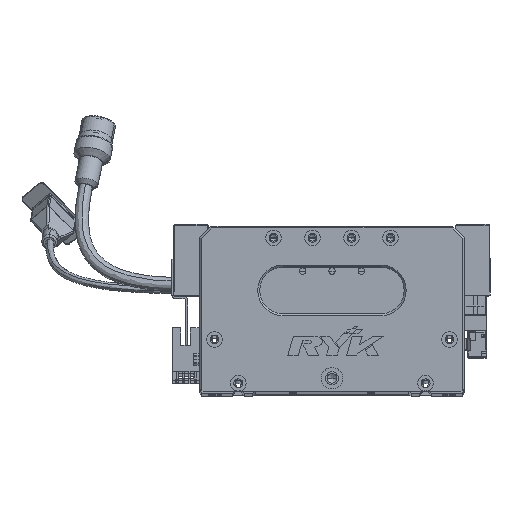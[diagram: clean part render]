
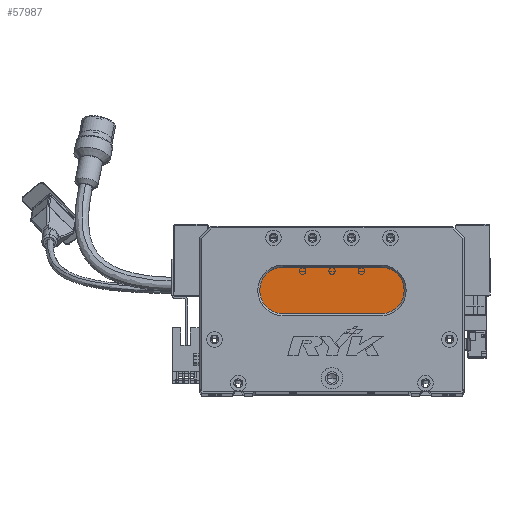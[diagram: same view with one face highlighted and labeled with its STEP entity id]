
A CAD part, top view. The second image highlights one B-rep face of the part: STEP entity #57987.
In plain terms, the highlighted planar face has unit normal (0, 0, 1) as drawn and (0, 0, -1) by its records, which use the part's own axes.
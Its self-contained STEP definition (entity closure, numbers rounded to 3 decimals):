
#783 = ORIENTED_EDGE ( 'NONE', *, *, #71770, .T. ) ;
#1615 = VERTEX_POINT ( 'NONE', #66406 ) ;
#2195 = DIRECTION ( 'NONE',  ( -1., 0., 0. ) ) ;
#4575 = PLANE ( 'NONE',  #73846 ) ;
#4957 = ORIENTED_EDGE ( 'NONE', *, *, #15529, .T. ) ;
#4980 = VECTOR ( 'NONE', #16483, 1000. ) ;
#7530 = CARTESIAN_POINT ( 'NONE',  ( 43., 52., 13. ) ) ;
#8085 = DIRECTION ( 'NONE',  ( 0., 0., -1. ) ) ;
#8284 = DIRECTION ( 'NONE',  ( 1., 0., 0. ) ) ;
#9104 = ORIENTED_EDGE ( 'NONE', *, *, #28504, .T. ) ;
#11985 = CARTESIAN_POINT ( 'NONE',  ( 43., 52., 13. ) ) ;
#12270 = EDGE_CURVE ( 'NONE', #54216, #68167, #80665, .T. ) ;
#14667 = FACE_OUTER_BOUND ( 'NONE', #60518, .T. ) ;
#15529 = EDGE_CURVE ( 'NONE', #50573, #54216, #49178, .T. ) ;
#16483 = DIRECTION ( 'NONE',  ( -1., 0., 0. ) ) ;
#20606 = DIRECTION ( 'NONE',  ( 0., 0., -1. ) ) ;
#23998 = DIRECTION ( 'NONE',  ( 0., 0., -1. ) ) ;
#24169 = DIRECTION ( 'NONE',  ( -1., 0., 0. ) ) ;
#25312 = EDGE_CURVE ( 'NONE', #30031, #1615, #70794, .T. ) ;
#28504 = EDGE_CURVE ( 'NONE', #68167, #30031, #55501, .T. ) ;
#29160 = ORIENTED_EDGE ( 'NONE', *, *, #25312, .T. ) ;
#30031 = VERTEX_POINT ( 'NONE', #42810 ) ;
#32158 = CIRCLE ( 'NONE', #33811, 12. ) ;
#33811 = AXIS2_PLACEMENT_3D ( 'NONE', #11985, #62013, #24169 ) ;
#35318 = CARTESIAN_POINT ( 'NONE',  ( 93., 40., 13. ) ) ;
#37036 = CARTESIAN_POINT ( 'NONE',  ( 93., 52., 13. ) ) ;
#42810 = CARTESIAN_POINT ( 'NONE',  ( 43., 40., 13. ) ) ;
#49178 = LINE ( 'NONE', #71045, #79864 ) ;
#50573 = VERTEX_POINT ( 'NONE', #71076 ) ;
#53883 = AXIS2_PLACEMENT_3D ( 'NONE', #64025, #20606, #76192 ) ;
#54216 = VERTEX_POINT ( 'NONE', #75966 ) ;
#55501 = LINE ( 'NONE', #35318, #4980 ) ;
#56110 = CARTESIAN_POINT ( 'NONE',  ( 93., 40., 13. ) ) ;
#56668 = ORIENTED_EDGE ( 'NONE', *, *, #12270, .T. ) ;
#57987 = ADVANCED_FACE ( 'NONE', ( #14667 ), #4575, .T. ) ;
#60518 = EDGE_LOOP ( 'NONE', ( #56668, #9104, #29160, #783, #4957 ) ) ;
#61850 = DIRECTION ( 'NONE',  ( -1., 0., 0. ) ) ;
#62013 = DIRECTION ( 'NONE',  ( 0., 0., -1. ) ) ;
#64025 = CARTESIAN_POINT ( 'NONE',  ( 93., 52., 13. ) ) ;
#66406 = CARTESIAN_POINT ( 'NONE',  ( 31., 52., 13. ) ) ;
#68167 = VERTEX_POINT ( 'NONE', #56110 ) ;
#70685 = AXIS2_PLACEMENT_3D ( 'NONE', #7530, #8085, #2195 ) ;
#70794 = CIRCLE ( 'NONE', #70685, 12. ) ;
#71045 = CARTESIAN_POINT ( 'NONE',  ( 93., 64., 13. ) ) ;
#71076 = CARTESIAN_POINT ( 'NONE',  ( 43., 64., 13. ) ) ;
#71770 = EDGE_CURVE ( 'NONE', #1615, #50573, #32158, .T. ) ;
#73846 = AXIS2_PLACEMENT_3D ( 'NONE', #37036, #23998, #61850 ) ;
#75966 = CARTESIAN_POINT ( 'NONE',  ( 93., 64., 13. ) ) ;
#76192 = DIRECTION ( 'NONE',  ( -1., 0., 0. ) ) ;
#79864 = VECTOR ( 'NONE', #8284, 1000. ) ;
#80665 = CIRCLE ( 'NONE', #53883, 12. ) ;
